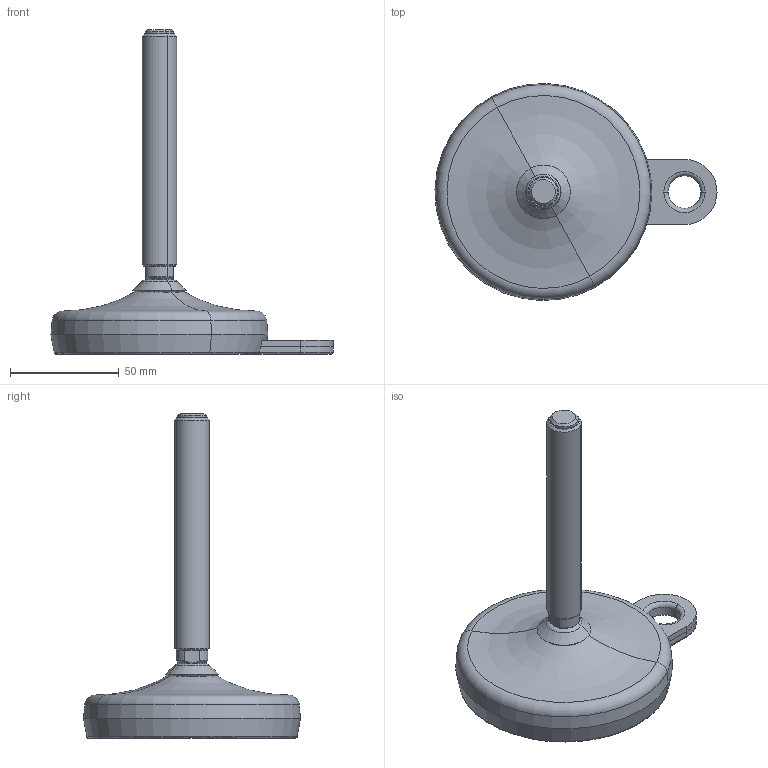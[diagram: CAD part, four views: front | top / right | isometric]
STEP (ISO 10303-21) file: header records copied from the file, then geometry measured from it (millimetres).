
FILE_DESCRIPTION(('CATIA V5 STEP Exchange'),'2;1');
FILE_NAME('X:\CODICI MOVEX\3D per clienti\3D definitivi\Part 900\P93702_01.stp','2016-09-28T15:42:16+00:00',('none'),('none'),'Version 5-6 Release 2012','CATIA V5 STEP AP203','none');
FILE_SCHEMA(('CONFIG_CONTROL_DESIGN'));
Length unit declared in the file: millimetre
Products named in the file (1): P93702_01
Assembly tree (3 placements, depth 2):
  P93702_01
    #58
    #1953
    #2294
Bounding box: 129.99 x 99.97 x 149.68 mm (x, y, z)
Volume: 194872.6 mm3; surface area: 60439.1 mm2
Topology: 5 solids, 5 shells, 130 faces, 277 edges, 169 vertices
Faces by surface type: cylinder 35, cone 34, plane 34, torus 21, revolution 6
Entity records: 3325 total; most frequent: CARTESIAN_POINT 608, ORIENTED_EDGE 554, DIRECTION 450, EDGE_CURVE 277, AXIS2_PLACEMENT_3D 268, CIRCLE 178, VERTEX_POINT 169, EDGE_LOOP 154
